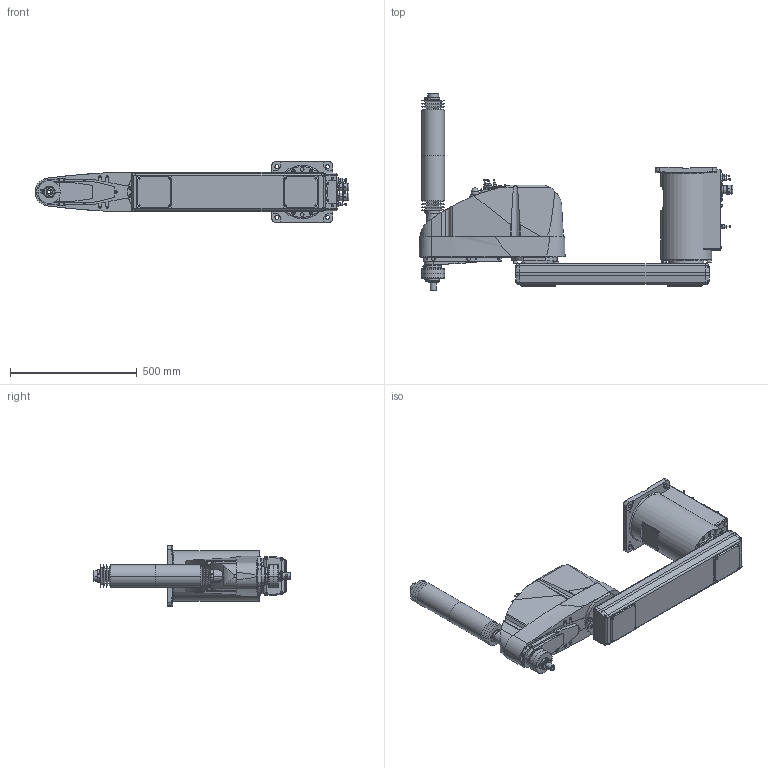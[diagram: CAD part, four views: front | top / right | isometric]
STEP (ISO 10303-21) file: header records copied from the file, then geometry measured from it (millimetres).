
FILE_DESCRIPTION( ( '' ), '1' );
FILE_NAME( '//expscmdclustefs.cadenas.external/client_exchange/iodir/jobs/output/wkb51494930_no0/STEP/G20_A04PR_2_03.stp', '2012-11-22T10:04:12', ( '' ), ( '' ), ' ', ' ', ' ' );
FILE_SCHEMA( ( 'CONFIG_CONTROL_DESIGN' ) );
Length unit declared in the file: millimetre
Products named in the file (8): 1; 2; 3; 4; 5; 6; 7; 8
Bounding box: 1239.5 x 777.5 x 240 mm (x, y, z)
Volume: 45107364 mm3; surface area: 1804076 mm2
Topology: 8 solids, 9 shells, 2075 faces, 4994 edges, 3204 vertices
Faces by surface type: plane 1075, cylinder 682, cone 290, torus 27, sphere 1
Entity records: 62375 total; most frequent: CARTESIAN_POINT 12374, DIRECTION 10726, ORIENTED_EDGE 9956, EDGE_CURVE 4978, AXIS2_PLACEMENT_3D 3811, VERTEX_POINT 3204, LINE 3104, VECTOR 3104
